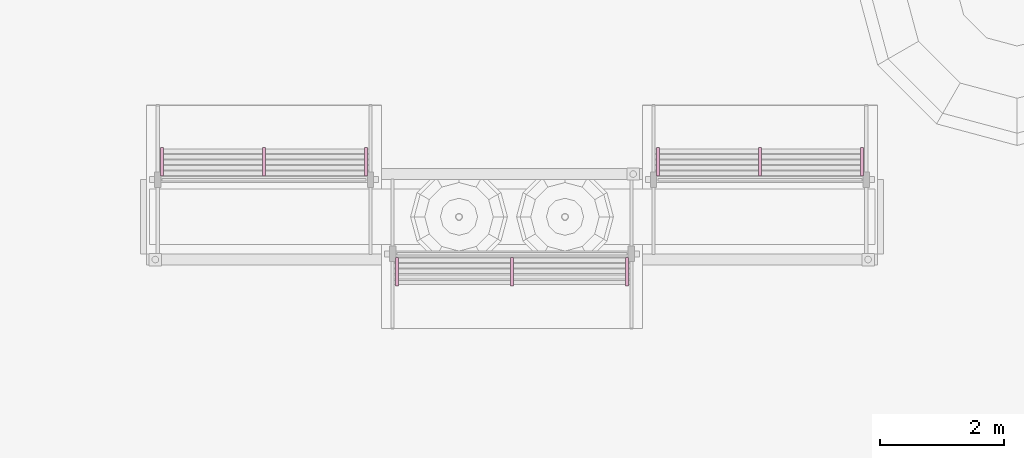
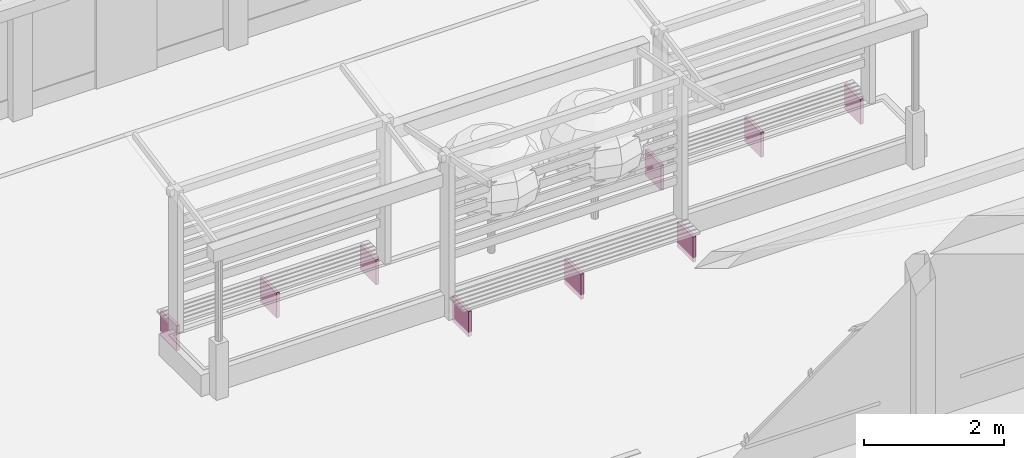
# One storey, part 152 of 177: 9 furnishings.
"""IFC4 building model written with IfcOpenShell, lengths in metres."""

from ifc_helpers import new_model, si_unit, origin, origin_with_axes, place, context, subcontext, project, spatial, triangles, element, save


model = new_model("IFC4")

# Units and contexts
model_context = context("Model", 3, precision=1e-05, world=origin_with_axes())
body_context = subcontext(model_context, "Body", "Model", "MODEL_VIEW")
ifc_project = project(units=[si_unit("LENGTHUNIT", "METRE"), si_unit("AREAUNIT", "SQUARE_METRE"), si_unit("VOLUMEUNIT", "CUBIC_METRE"), si_unit("PLANEANGLEUNIT", "RADIAN")], contexts=[model_context])

# Site, building, storey
site_placement = place(None, origin_with_axes())
site = spatial("IfcSite", under=ifc_project, at=site_placement, Name="Predio Los Mangos - Morales, San Martín", CompositionType="ELEMENT")
building_placement = place(site_placement, origin())
building = spatial("IfcBuilding", under=site, at=building_placement, Name="Hogar de Refugio Temporal", CompositionType="ELEMENT")
storey_placement = place(building_placement, origin())
storey = spatial("IfcBuildingStorey", under=building, at=storey_placement, Name="NIVEL 1 (NPT +0.00)", CompositionType="ELEMENT", Elevation=0.0)

# Furnishings
furnishing_1_placement = place(storey_placement, origin())
element("IfcFurnishingElement", 1, at=furnishing_1_placement, inside=storey, Name="oc01_pata", ObjectType="Mobiliario exterior / juegos", context=body_context, shape_type="Tessellation", body=[
    triangles([(46.02, 111.37, 0.0), (45.97, 111.37, 0.0), (45.97, 110.91, 0.0), (46.02, 110.91, 0.0), (46.02, 111.37, 0.44), (45.97, 111.37, 0.44), (45.97, 110.91, 0.44), (46.02, 110.91, 0.44)], [[1, 4, 3], [1, 3, 2], [5, 6, 7], [5, 7, 8], [1, 2, 6], [1, 6, 5], [2, 3, 7], [2, 7, 6], [3, 4, 8], [3, 8, 7], [4, 1, 5], [4, 5, 8]]),
])
furnishing_2_placement = place(storey_placement, origin())
element("IfcFurnishingElement", 2, at=furnishing_2_placement, inside=storey, Name="oc01_pata", ObjectType="Mobiliario exterior / juegos", context=body_context, shape_type="Tessellation", body=[
    triangles([(44.375, 111.37, 0.0), (44.325, 111.37, 0.0), (44.325, 110.91, 0.0), (44.375, 110.91, 0.0), (44.375, 111.37, 0.44), (44.325, 111.37, 0.44), (44.325, 110.91, 0.44), (44.375, 110.91, 0.44)], [[1, 4, 3], [1, 3, 2], [5, 6, 7], [5, 7, 8], [1, 2, 6], [1, 6, 5], [2, 3, 7], [2, 7, 6], [3, 4, 8], [3, 8, 7], [4, 1, 5], [4, 5, 8]]),
])
furnishing_3_placement = place(storey_placement, origin())
element("IfcFurnishingElement", 3, at=furnishing_3_placement, inside=storey, Name="oc01_pata", ObjectType="Mobiliario exterior / juegos", context=body_context, shape_type="Tessellation", body=[
    triangles([(42.73, 111.37, 0.0), (42.68, 111.37, 0.0), (42.68, 110.91, 0.0), (42.73, 110.91, 0.0), (42.73, 111.37, 0.44), (42.68, 111.37, 0.44), (42.68, 110.91, 0.44), (42.73, 110.91, 0.44)], [[1, 4, 3], [1, 3, 2], [5, 6, 7], [5, 7, 8], [1, 2, 6], [1, 6, 5], [2, 3, 7], [2, 7, 6], [3, 4, 8], [3, 8, 7], [4, 1, 5], [4, 5, 8]]),
])
furnishing_4_placement = place(storey_placement, origin())
element("IfcFurnishingElement", 4, at=furnishing_4_placement, inside=storey, Name="oc01_pata", ObjectType="Mobiliario exterior / juegos", context=body_context, shape_type="Tessellation", body=[
    triangles([(42.23, 109.59, 0.0), (42.18, 109.59, 0.0), (42.18, 109.13, 0.0), (42.23, 109.13, 0.0), (42.23, 109.59, 0.44), (42.18, 109.59, 0.44), (42.18, 109.13, 0.44), (42.23, 109.13, 0.44)], [[1, 4, 3], [1, 3, 2], [5, 6, 7], [5, 7, 8], [1, 2, 6], [1, 6, 5], [2, 3, 7], [2, 7, 6], [3, 4, 8], [3, 8, 7], [4, 1, 5], [4, 5, 8]]),
])
furnishing_5_placement = place(storey_placement, origin())
element("IfcFurnishingElement", 5, at=furnishing_5_placement, inside=storey, Name="oc01_pata", ObjectType="Mobiliario exterior / juegos", context=body_context, shape_type="Tessellation", body=[
    triangles([(40.375, 109.59, 0.0), (40.325, 109.59, 0.0), (40.325, 109.13, 0.0), (40.375, 109.13, 0.0), (40.375, 109.59, 0.44), (40.325, 109.59, 0.44), (40.325, 109.13, 0.44), (40.375, 109.13, 0.44)], [[1, 4, 3], [1, 3, 2], [5, 6, 7], [5, 7, 8], [1, 2, 6], [1, 6, 5], [2, 3, 7], [2, 7, 6], [3, 4, 8], [3, 8, 7], [4, 1, 5], [4, 5, 8]]),
])
furnishing_6_placement = place(storey_placement, origin())
element("IfcFurnishingElement", 6, at=furnishing_6_placement, inside=storey, Name="oc01_pata", ObjectType="Mobiliario exterior / juegos", context=body_context, shape_type="Tessellation", body=[
    triangles([(38.52, 109.59, 0.0), (38.47, 109.59, 0.0), (38.47, 109.13, 0.0), (38.52, 109.13, 0.0), (38.52, 109.59, 0.44), (38.47, 109.59, 0.44), (38.47, 109.13, 0.44), (38.52, 109.13, 0.44)], [[1, 4, 3], [1, 3, 2], [5, 6, 7], [5, 7, 8], [1, 2, 6], [1, 6, 5], [2, 3, 7], [2, 7, 6], [3, 4, 8], [3, 8, 7], [4, 1, 5], [4, 5, 8]]),
])
furnishing_7_placement = place(storey_placement, origin())
element("IfcFurnishingElement", 7, at=furnishing_7_placement, inside=storey, Name="oc01_pata", ObjectType="Mobiliario exterior / juegos", context=body_context, shape_type="Tessellation", body=[
    triangles([(38.02, 111.37, 0.0), (37.97, 111.37, 0.0), (37.97, 110.91, 0.0), (38.02, 110.91, 0.0), (38.02, 111.37, 0.44), (37.97, 111.37, 0.44), (37.97, 110.91, 0.44), (38.02, 110.91, 0.44)], [[1, 4, 3], [1, 3, 2], [5, 6, 7], [5, 7, 8], [1, 2, 6], [1, 6, 5], [2, 3, 7], [2, 7, 6], [3, 4, 8], [3, 8, 7], [4, 1, 5], [4, 5, 8]]),
])
furnishing_8_placement = place(storey_placement, origin())
element("IfcFurnishingElement", 8, at=furnishing_8_placement, inside=storey, Name="oc01_pata", ObjectType="Mobiliario exterior / juegos", context=body_context, shape_type="Tessellation", body=[
    triangles([(36.375, 111.37, 0.0), (36.325, 111.37, 0.0), (36.325, 110.91, 0.0), (36.375, 110.91, 0.0), (36.375, 111.37, 0.44), (36.325, 111.37, 0.44), (36.325, 110.91, 0.44), (36.375, 110.91, 0.44)], [[1, 4, 3], [1, 3, 2], [5, 6, 7], [5, 7, 8], [1, 2, 6], [1, 6, 5], [2, 3, 7], [2, 7, 6], [3, 4, 8], [3, 8, 7], [4, 1, 5], [4, 5, 8]]),
])
furnishing_9_placement = place(storey_placement, origin())
element("IfcFurnishingElement", 9, at=furnishing_9_placement, inside=storey, Name="oc01_pata", ObjectType="Mobiliario exterior / juegos", context=body_context, shape_type="Tessellation", body=[
    triangles([(34.73, 111.37, 0.0), (34.68, 111.37, 0.0), (34.68, 110.91, 0.0), (34.73, 110.91, 0.0), (34.73, 111.37, 0.44), (34.68, 111.37, 0.44), (34.68, 110.91, 0.44), (34.73, 110.91, 0.44)], [[1, 4, 3], [1, 3, 2], [5, 6, 7], [5, 7, 8], [1, 2, 6], [1, 6, 5], [2, 3, 7], [2, 7, 6], [3, 4, 8], [3, 8, 7], [4, 1, 5], [4, 5, 8]]),
])

save(model, "model.ifc")
